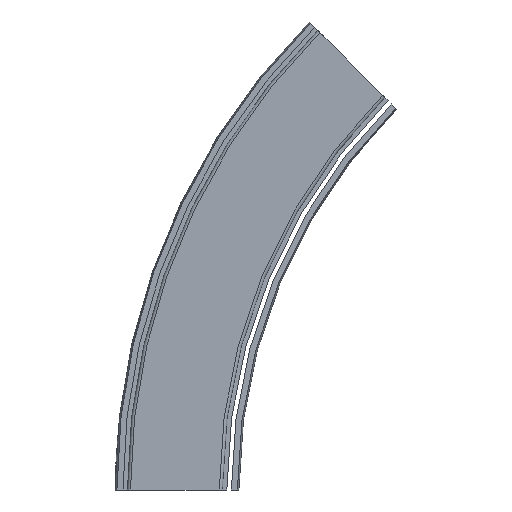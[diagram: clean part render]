
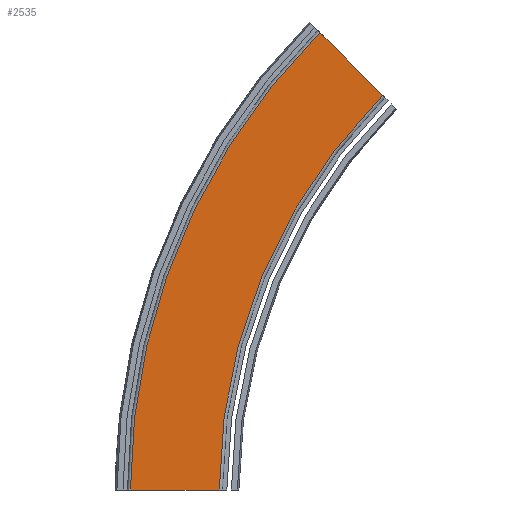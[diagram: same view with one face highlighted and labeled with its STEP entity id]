
A CAD part, left-side view. The second image highlights one B-rep face of the part: STEP entity #2535.
In plain terms, the highlighted planar face has unit normal (-1, 0, 0).
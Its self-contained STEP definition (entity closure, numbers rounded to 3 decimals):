
#2475=CARTESIAN_POINT('',(-43.0,-106.517,261.983));
#2476=VERTEX_POINT('',#2475);
#2484=CARTESIAN_POINT('',(-43.0,2.,0.0));
#2485=VERTEX_POINT('',#2484);
#2486=CARTESIAN_POINT('',(-43.0,-368.5,0.));
#2487=DIRECTION('',(1.0,0.0,0.0));
#2488=DIRECTION('',(0.0,1.0,0.0));
#2489=AXIS2_PLACEMENT_3D('',#2486,#2487,#2488);
#2490=CIRCLE('',#2489,370.5);
#2491=EDGE_CURVE('',#2485,#2476,#2490,.T.);
#2504=CARTESIAN_POINT('',(-43.0,31.5,0.0));
#2505=DIRECTION('',(-1.0,0.0,0.0));
#2506=DIRECTION('',(0.0,0.0,1.0));
#2507=AXIS2_PLACEMENT_3D('',#2504,#2505,#2506);
#2508=PLANE('',#2507);
#2509=CARTESIAN_POINT('',(-43.0,-64.798,303.702));
#2510=VERTEX_POINT('',#2509);
#2511=CARTESIAN_POINT('',(-43.0,-106.517,261.983));
#2512=DIRECTION('',(0.0,0.707,0.707));
#2513=VECTOR('',#2512,59.);
#2514=LINE('',#2511,#2513);
#2515=EDGE_CURVE('',#2476,#2510,#2514,.T.);
#2516=ORIENTED_EDGE('',*,*,#2515,.T.);
#2517=CARTESIAN_POINT('',(-43.0,61.0,0.0));
#2518=VERTEX_POINT('',#2517);
#2519=CARTESIAN_POINT('',(-43.0,-368.5,0.));
#2520=DIRECTION('',(1.0,0.0,0.0));
#2521=DIRECTION('',(0.0,1.0,0.0));
#2522=AXIS2_PLACEMENT_3D('',#2519,#2520,#2521);
#2523=CIRCLE('',#2522,429.5);
#2524=EDGE_CURVE('',#2518,#2510,#2523,.T.);
#2525=ORIENTED_EDGE('',*,*,#2524,.F.);
#2526=CARTESIAN_POINT('',(-43.0,61.0,0.0));
#2527=DIRECTION('',(0.0,-1.0,0.0));
#2528=VECTOR('',#2527,59.0);
#2529=LINE('',#2526,#2528);
#2530=EDGE_CURVE('',#2518,#2485,#2529,.T.);
#2531=ORIENTED_EDGE('',*,*,#2530,.T.);
#2532=ORIENTED_EDGE('',*,*,#2491,.T.);
#2533=EDGE_LOOP('',(#2516,#2525,#2531,#2532));
#2534=FACE_OUTER_BOUND('',#2533,.T.);
#2535=ADVANCED_FACE('',(#2534),#2508,.T.);
